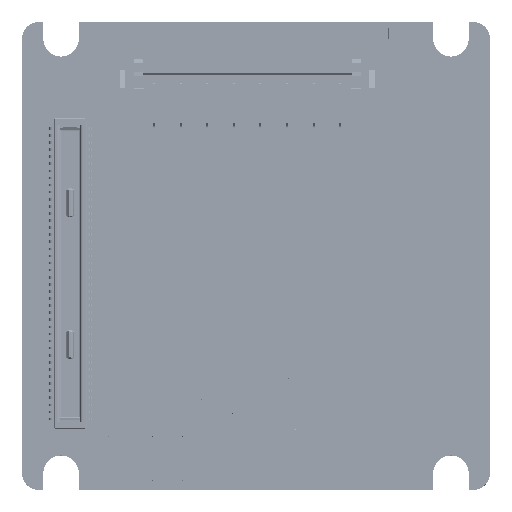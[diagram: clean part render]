
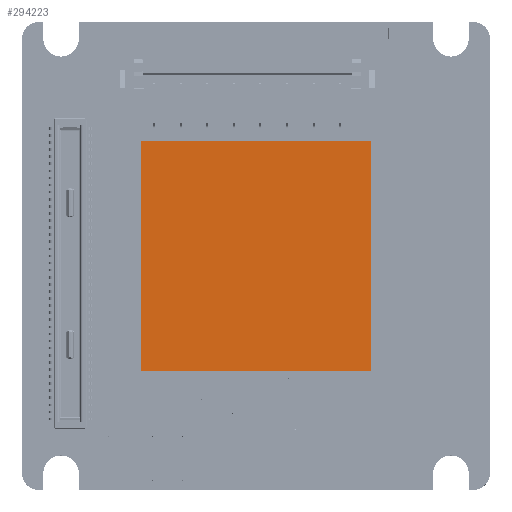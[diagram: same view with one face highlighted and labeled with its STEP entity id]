
A CAD part, top view. The second image highlights one B-rep face of the part: STEP entity #294223.
In plain terms, the highlighted planar face has unit normal (0, 0, 1).
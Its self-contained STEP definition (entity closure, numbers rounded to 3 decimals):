
#30439 = FACE_OUTER_BOUND ( 'NONE', #426047, .T. ) ;
#55363 = DIRECTION ( 'NONE',  ( 0., 0., -1. ) ) ;
#86132 = EDGE_CURVE ( 'NONE', #702969, #634709, #170578, .T. ) ;
#126616 = DIRECTION ( 'NONE',  ( 1., 0., 0. ) ) ;
#130180 = CARTESIAN_POINT ( 'NONE',  ( -6.5, 6.5, 6.162 ) ) ;
#143933 = LINE ( 'NONE', #201720, #355378 ) ;
#159124 = VERTEX_POINT ( 'NONE', #660269 ) ;
#163483 = ORIENTED_EDGE ( 'NONE', *, *, #556247, .F. ) ;
#170578 = LINE ( 'NONE', #661680, #340560 ) ;
#171282 = CARTESIAN_POINT ( 'NONE',  ( -6.5, 6.5, 6.162 ) ) ;
#201720 = CARTESIAN_POINT ( 'NONE',  ( 6.5, 6.5, 6.162 ) ) ;
#224941 = AXIS2_PLACEMENT_3D ( 'NONE', #539298, #55363, #705487 ) ;
#247898 = VECTOR ( 'NONE', #320719, 1000. ) ;
#259327 = DIRECTION ( 'NONE',  ( 0., -1., 0. ) ) ;
#275335 = VERTEX_POINT ( 'NONE', #480490 ) ;
#294223 = ADVANCED_FACE ( 'NONE', ( #30439 ), #691212, .F. ) ;
#305791 = ORIENTED_EDGE ( 'NONE', *, *, #389100, .F. ) ;
#320719 = DIRECTION ( 'NONE',  ( -1., 0., 0. ) ) ;
#340560 = VECTOR ( 'NONE', #665206, 1000. ) ;
#355378 = VECTOR ( 'NONE', #259327, 1000. ) ;
#389100 = EDGE_CURVE ( 'NONE', #275335, #159124, #143933, .T. ) ;
#393786 = LINE ( 'NONE', #130180, #563222 ) ;
#426047 = EDGE_LOOP ( 'NONE', ( #163483, #305791, #639924, #646094 ) ) ;
#436052 = LINE ( 'NONE', #449372, #247898 ) ;
#449372 = CARTESIAN_POINT ( 'NONE',  ( 6.5, -6.5, 6.162 ) ) ;
#480490 = CARTESIAN_POINT ( 'NONE',  ( 6.5, 6.5, 6.162 ) ) ;
#539298 = CARTESIAN_POINT ( 'NONE',  ( 0., 0., 6.162 ) ) ;
#556247 = EDGE_CURVE ( 'NONE', #159124, #702969, #436052, .T. ) ;
#559958 = CARTESIAN_POINT ( 'NONE',  ( -6.5, -6.5, 6.162 ) ) ;
#563222 = VECTOR ( 'NONE', #126616, 1000. ) ;
#634709 = VERTEX_POINT ( 'NONE', #171282 ) ;
#639924 = ORIENTED_EDGE ( 'NONE', *, *, #665787, .F. ) ;
#646094 = ORIENTED_EDGE ( 'NONE', *, *, #86132, .F. ) ;
#660269 = CARTESIAN_POINT ( 'NONE',  ( 6.5, -6.5, 6.162 ) ) ;
#661680 = CARTESIAN_POINT ( 'NONE',  ( -6.5, -6.5, 6.162 ) ) ;
#665206 = DIRECTION ( 'NONE',  ( 0., 1., 0. ) ) ;
#665787 = EDGE_CURVE ( 'NONE', #634709, #275335, #393786, .T. ) ;
#691212 = PLANE ( 'NONE',  #224941 ) ;
#702969 = VERTEX_POINT ( 'NONE', #559958 ) ;
#705487 = DIRECTION ( 'NONE',  ( 0., -1., 0. ) ) ;
